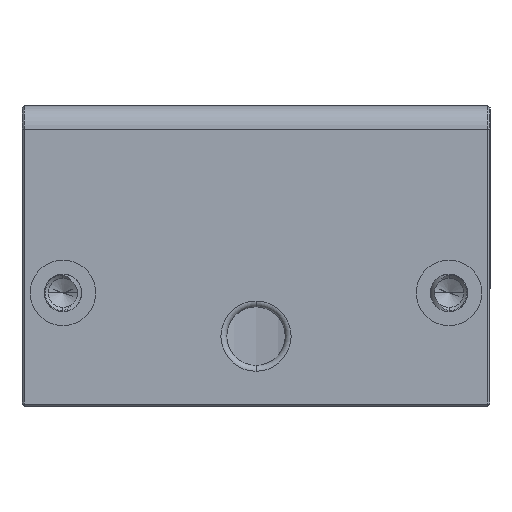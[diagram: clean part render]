
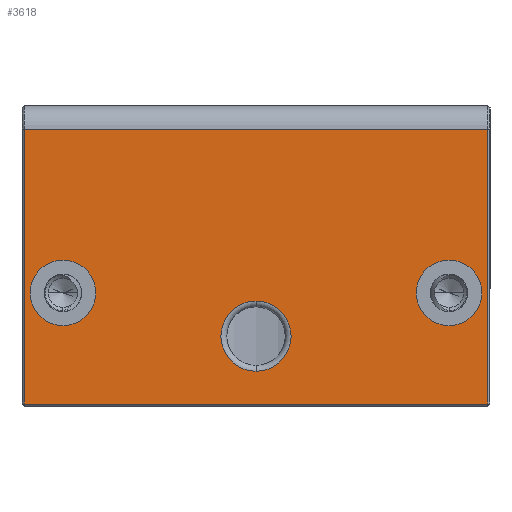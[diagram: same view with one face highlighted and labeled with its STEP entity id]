
A CAD part, front view. The second image highlights one B-rep face of the part: STEP entity #3618.
In plain terms, the highlighted planar face has unit normal (0, -1, 0).
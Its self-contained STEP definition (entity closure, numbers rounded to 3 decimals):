
#46 = VERTEX_POINT ( 'NONE', #3783 ) ;
#116 = FACE_BOUND ( 'NONE', #7606, .T. ) ;
#233 = CARTESIAN_POINT ( 'NONE',  ( 13.382, -22.127, -28. ) ) ;
#238 = ORIENTED_EDGE ( 'NONE', *, *, #7171, .T. ) ;
#269 = CARTESIAN_POINT ( 'NONE',  ( -3.118, -22.127, -24.1 ) ) ;
#279 = CARTESIAN_POINT ( 'NONE',  ( -6.418, -22.127, -19.05 ) ) ;
#346 = FACE_OUTER_BOUND ( 'NONE', #8986, .T. ) ;
#390 = CARTESIAN_POINT ( 'NONE',  ( 29.882, -22.127, -18.5 ) ) ;
#475 = VECTOR ( 'NONE', #2380, 1000. ) ;
#637 = VERTEX_POINT ( 'NONE', #233 ) ;
#652 = VERTEX_POINT ( 'NONE', #4464 ) ;
#704 = LINE ( 'NONE', #2409, #475 ) ;
#851 = ORIENTED_EDGE ( 'NONE', *, *, #7166, .F. ) ;
#969 = VERTEX_POINT ( 'NONE', #6959 ) ;
#1112 = VERTEX_POINT ( 'NONE', #2968 ) ;
#1602 = CARTESIAN_POINT ( 'NONE',  ( -6.418, -22.127, -7.3 ) ) ;
#1827 = FACE_BOUND ( 'NONE', #5486, .T. ) ;
#1847 = LINE ( 'NONE', #3889, #8602 ) ;
#2030 = AXIS2_PLACEMENT_3D ( 'NONE', #8126, #8049, #8047 ) ;
#2321 = VECTOR ( 'NONE', #9054, 1000. ) ;
#2380 = DIRECTION ( 'NONE',  ( 0., 0., 1. ) ) ;
#2409 = CARTESIAN_POINT ( 'NONE',  ( 33.182, -22.127, -19.05 ) ) ;
#2724 = EDGE_CURVE ( 'NONE', #46, #3681, #704, .T. ) ;
#2826 = VECTOR ( 'NONE', #6852, 1000. ) ;
#2842 = AXIS2_PLACEMENT_3D ( 'NONE', #8163, #8172, #8183 ) ;
#2968 = CARTESIAN_POINT ( 'NONE',  ( 29.882, -22.127, -24.1 ) ) ;
#3088 = EDGE_CURVE ( 'NONE', #4948, #1112, #7012, .T. ) ;
#3278 = CARTESIAN_POINT ( 'NONE',  ( -3.118, -22.127, -18.5 ) ) ;
#3463 = VERTEX_POINT ( 'NONE', #1602 ) ;
#3485 = VERTEX_POINT ( 'NONE', #269 ) ;
#3618 = ADVANCED_FACE ( 'NONE', ( #346, #7443, #116, #1827 ), #8168, .T. ) ;
#3681 = VERTEX_POINT ( 'NONE', #7452 ) ;
#3783 = CARTESIAN_POINT ( 'NONE',  ( 33.182, -22.127, -30.8 ) ) ;
#3889 = CARTESIAN_POINT ( 'NONE',  ( 13.382, -22.127, -30.8 ) ) ;
#4244 = EDGE_CURVE ( 'NONE', #3463, #969, #7665, .T. ) ;
#4362 = EDGE_CURVE ( 'NONE', #969, #46, #1847, .T. ) ;
#4464 = CARTESIAN_POINT ( 'NONE',  ( 13.382, -22.127, -22. ) ) ;
#4473 = AXIS2_PLACEMENT_3D ( 'NONE', #6917, #6919, #6932 ) ;
#4536 = ORIENTED_EDGE ( 'NONE', *, *, #2724, .T. ) ;
#4597 = DIRECTION ( 'NONE',  ( 1., 0., 0. ) ) ;
#4778 = ORIENTED_EDGE ( 'NONE', *, *, #4244, .T. ) ;
#4844 = ORIENTED_EDGE ( 'NONE', *, *, #8640, .T. ) ;
#4948 = VERTEX_POINT ( 'NONE', #390 ) ;
#5008 = AXIS2_PLACEMENT_3D ( 'NONE', #6741, #6727, #6718 ) ;
#5019 = DIRECTION ( 'NONE',  ( 0., 1., 0. ) ) ;
#5020 = DIRECTION ( 'NONE',  ( 0., 0., -1. ) ) ;
#5040 = CARTESIAN_POINT ( 'NONE',  ( 29.882, -22.127, -21.3 ) ) ;
#5044 = AXIS2_PLACEMENT_3D ( 'NONE', #6645, #7088, #7069 ) ;
#5377 = CIRCLE ( 'NONE', #5008, 3. ) ;
#5380 = VERTEX_POINT ( 'NONE', #3278 ) ;
#5486 = EDGE_LOOP ( 'NONE', ( #4844, #6922 ) ) ;
#5557 = ORIENTED_EDGE ( 'NONE', *, *, #3088, .T. ) ;
#5889 = CIRCLE ( 'NONE', #6672, 2.8 ) ;
#6236 = EDGE_CURVE ( 'NONE', #5380, #3485, #9135, .T. ) ;
#6538 = LINE ( 'NONE', #6785, #2826 ) ;
#6645 = CARTESIAN_POINT ( 'NONE',  ( -3.118, -22.127, -21.3 ) ) ;
#6647 = CIRCLE ( 'NONE', #2842, 2.8 ) ;
#6672 = AXIS2_PLACEMENT_3D ( 'NONE', #8522, #8462, #8454 ) ;
#6718 = DIRECTION ( 'NONE',  ( 0., 0., 1. ) ) ;
#6727 = DIRECTION ( 'NONE',  ( 0., 1., 0. ) ) ;
#6741 = CARTESIAN_POINT ( 'NONE',  ( 13.382, -22.127, -25. ) ) ;
#6784 = AXIS2_PLACEMENT_3D ( 'NONE', #5040, #5019, #5020 ) ;
#6785 = CARTESIAN_POINT ( 'NONE',  ( 13.382, -22.127, -7.3 ) ) ;
#6852 = DIRECTION ( 'NONE',  ( 1., 0., 0. ) ) ;
#6917 = CARTESIAN_POINT ( 'NONE',  ( 13.382, -22.127, -25. ) ) ;
#6919 = DIRECTION ( 'NONE',  ( 0., 1., 0. ) ) ;
#6922 = ORIENTED_EDGE ( 'NONE', *, *, #6236, .T. ) ;
#6932 = DIRECTION ( 'NONE',  ( 0., 0., 1. ) ) ;
#6959 = CARTESIAN_POINT ( 'NONE',  ( -6.418, -22.127, -30.8 ) ) ;
#7012 = CIRCLE ( 'NONE', #6784, 2.8 ) ;
#7069 = DIRECTION ( 'NONE',  ( 0., 0., -1. ) ) ;
#7088 = DIRECTION ( 'NONE',  ( 0., 1., 0. ) ) ;
#7166 = EDGE_CURVE ( 'NONE', #3463, #3681, #6538, .T. ) ;
#7171 = EDGE_CURVE ( 'NONE', #652, #637, #8342, .T. ) ;
#7394 = EDGE_LOOP ( 'NONE', ( #238, #9092 ) ) ;
#7443 = FACE_BOUND ( 'NONE', #7394, .T. ) ;
#7452 = CARTESIAN_POINT ( 'NONE',  ( 33.182, -22.127, -7.3 ) ) ;
#7461 = EDGE_CURVE ( 'NONE', #1112, #4948, #6647, .T. ) ;
#7606 = EDGE_LOOP ( 'NONE', ( #8758, #5557 ) ) ;
#7665 = LINE ( 'NONE', #279, #2321 ) ;
#8047 = DIRECTION ( 'NONE',  ( 1., 0., 0. ) ) ;
#8049 = DIRECTION ( 'NONE',  ( 0., -1., 0. ) ) ;
#8126 = CARTESIAN_POINT ( 'NONE',  ( -6.418, -22.127, -30.8 ) ) ;
#8163 = CARTESIAN_POINT ( 'NONE',  ( 29.882, -22.127, -21.3 ) ) ;
#8168 = PLANE ( 'NONE',  #2030 ) ;
#8172 = DIRECTION ( 'NONE',  ( 0., 1., 0. ) ) ;
#8183 = DIRECTION ( 'NONE',  ( 0., 0., -1. ) ) ;
#8342 = CIRCLE ( 'NONE', #4473, 3. ) ;
#8454 = DIRECTION ( 'NONE',  ( 0., 0., -1. ) ) ;
#8462 = DIRECTION ( 'NONE',  ( 0., 1., 0. ) ) ;
#8466 = EDGE_CURVE ( 'NONE', #637, #652, #5377, .T. ) ;
#8522 = CARTESIAN_POINT ( 'NONE',  ( -3.118, -22.127, -21.3 ) ) ;
#8602 = VECTOR ( 'NONE', #4597, 1000. ) ;
#8640 = EDGE_CURVE ( 'NONE', #3485, #5380, #5889, .T. ) ;
#8758 = ORIENTED_EDGE ( 'NONE', *, *, #7461, .T. ) ;
#8875 = ORIENTED_EDGE ( 'NONE', *, *, #4362, .T. ) ;
#8986 = EDGE_LOOP ( 'NONE', ( #8875, #4536, #851, #4778 ) ) ;
#9054 = DIRECTION ( 'NONE',  ( 0., 0., -1. ) ) ;
#9092 = ORIENTED_EDGE ( 'NONE', *, *, #8466, .T. ) ;
#9135 = CIRCLE ( 'NONE', #5044, 2.8 ) ;
